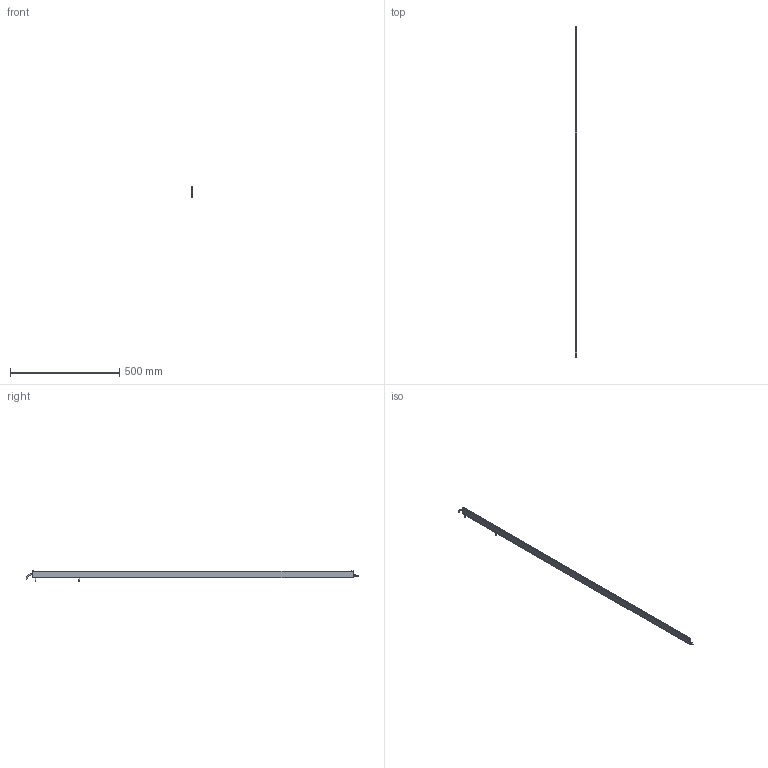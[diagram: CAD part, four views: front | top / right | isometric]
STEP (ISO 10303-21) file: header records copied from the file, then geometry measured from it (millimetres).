
FILE_DESCRIPTION (( 'STEP AP214' ), '1' );
FILE_NAME ('ILG-B-K1-1470mm.STEP', '2017-07-10T12:18:09', ( '' ), ( '' ), 'SwSTEP 2.0', 'SolidWorks 2016', '' );
FILE_SCHEMA (( 'AUTOMOTIVE_DESIGN' ));
Length unit declared in the file: millimetre
Products named in the file (1): ILG-B-K1-1470mm
Bounding box: 9 x 1518.25 x 46.21 mm (x, y, z)
Volume: 165793 mm3; surface area: 244082.2 mm2
Topology: 11 solids, 11 shells, 453 faces, 1150 edges, 724 vertices
Faces by surface type: plane 216, cylinder 152, cone 73, torus 12
Entity records: 18769 total; most frequent: CARTESIAN_POINT 2540, DIRECTION 2424, ORIENTED_EDGE 2284, EDGE_CURVE 1142, AXIS2_PLACEMENT_3D 896, VERTEX_POINT 724, VECTOR 632, LINE 632
